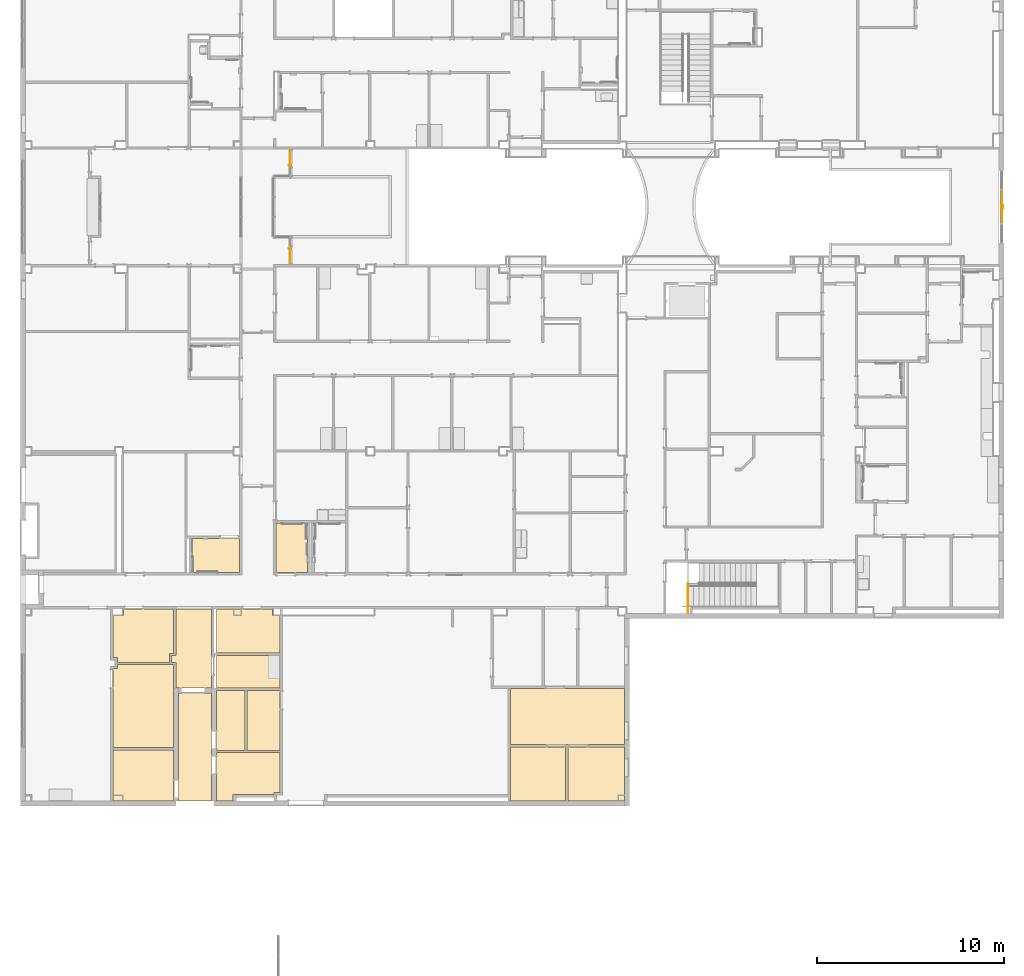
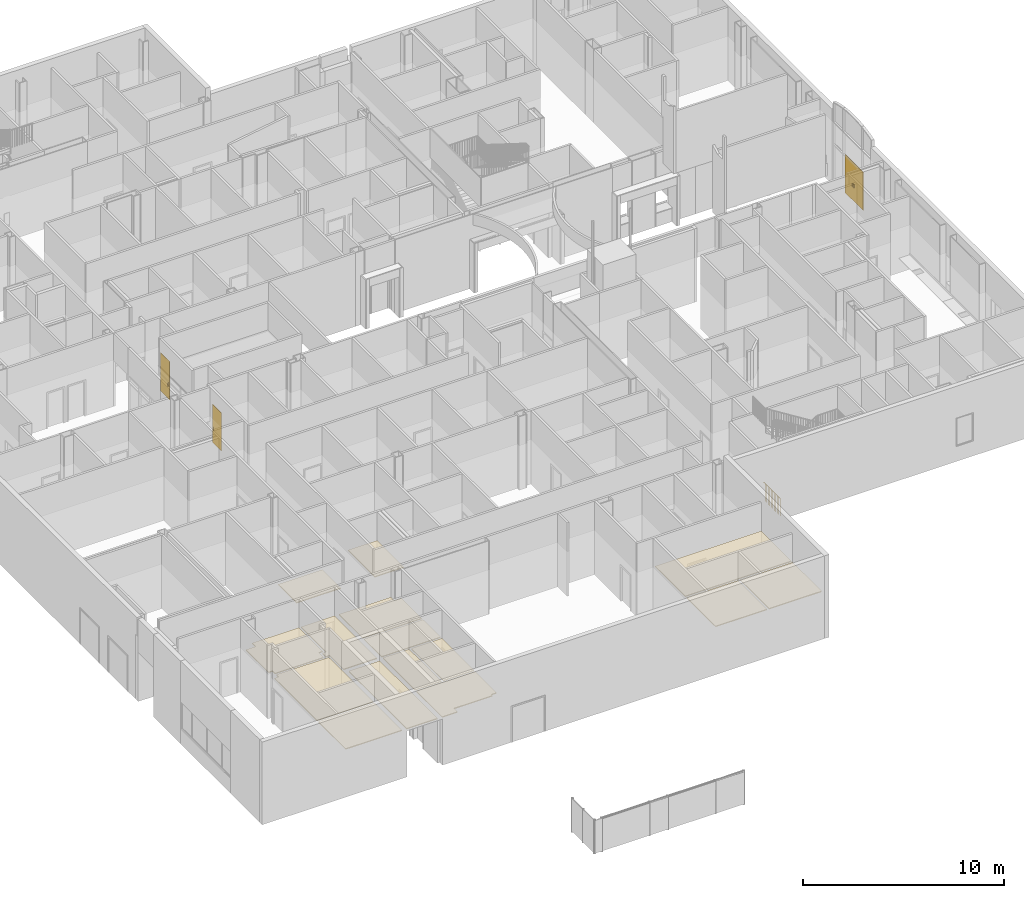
# One storey, part 47 of 82: 15 coverings, 6 doors, 1 railing, 3 elements without a shape of their own.
"""IFC2X3 building model written with IfcOpenShell, lengths in metres."""

from ifc_helpers import new_model, entity, si_unit, converted_unit, frame, origin, origin_2d_with_axis, place, context, project, spatial, rectangle, circle, extrude, face_set, surface_model, source, transform, mapped, material, layer, layer_set, layer_usage, type_object, type_shapes, element, aggregate, save


model = new_model("IFC2X3")

# Units and contexts
model_context = context("Model", 3, precision=1e-09, world=origin())
plan_context = context("Plan", 3, precision=1e-09, world=origin())
ifc_project = project(units=[si_unit("LENGTHUNIT", "METRE"), si_unit("AREAUNIT", "SQUARE_METRE"), si_unit("VOLUMEUNIT", "CUBIC_METRE"), converted_unit("PLANEANGLEUNIT", "DEGREE", entity("IfcRatioMeasure", 0.01745329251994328), si_unit("PLANEANGLEUNIT", "RADIAN"), dimensions=[0, 0, 0, 0, 0, 0, 0]), si_unit("TIMEUNIT", "SECOND")], contexts=[model_context, plan_context])

# Site, building, storey
site_placement = place(None, origin())
site = spatial("IfcSite", under=ifc_project, at=site_placement, Name="Default", CompositionType="ELEMENT")
building_placement = place(site_placement, origin())
building = spatial("IfcBuilding", under=site, at=building_placement, CompositionType="ELEMENT")
storey_placement = place(building_placement, origin())
storey = spatial("IfcBuildingStorey", under=building, at=storey_placement, Name="First Floor", CompositionType="ELEMENT", Elevation=-3.531500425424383e-13)

# Curtain wall, door
curtain_wall_1_placement = place(storey_placement, origin())
curtain_wall_1 = element("IfcCurtainWall", 1, at=curtain_wall_1_placement, inside=storey, Name="Curtain Wall:Storefront - Interior", ObjectType="Curtain Wall:Storefront - Interior")
door_style_1 = type_object("IfcDoorStyle", Name="M_Curtain Wall Sgl Glass", ConstructionType="NOTDEFINED", OperationType="SINGLE_SWING_RIGHT", ParameterTakesPrecedence=False, Sizeable=False)
shared_shape_1 = source(origin(), model_context, "Body", "SweptSolid", [
    extrude(rectangle(XDim=0.0508, YDim=0.02540000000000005, at=origin_2d_with_axis()), frame((-0.3608743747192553, 0.01290000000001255, 0.7619999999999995), z_axis=(0.0, 0.0, 1.0), x_axis=(0.0, 1.0, 0.0)), (0.0, 0.0, 1.0), 0.2286000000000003),
    extrude(rectangle(XDim=0.0508, YDim=0.02539999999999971, at=origin_2d_with_axis()), frame((-0.3608743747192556, 0.07640000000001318, 0.762), z_axis=(0.0, 0.0, 1.0), x_axis=(0.0, -1.0, 0.0)), (0.0, 0.0, 1.0), 0.2286),
    extrude(rectangle(XDim=0.8995487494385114, YDim=0.01270000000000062, at=origin_2d_with_axis()), frame((0.0, 0.04465000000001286, 0.0), z_axis=(0.0, 0.0, 1.0), x_axis=(-1.0, 0.0, 0.0)), (0.0, 0.0, 1.0), 2.325),
])
type_shapes(door_style_1, [shared_shape_1])
door_1_placement = place(storey_placement, frame((-37.80500000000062, 34.27977377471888, 0.05), z_axis=(0.0, 0.0, 1.0), x_axis=(0.0, 1.0, 0.0)))
door_1 = element("IfcDoor", 2, at=door_1_placement, type_object=door_style_1, Name="M_Curtain Wall Sgl Glass:M_Curtain Wall Sgl Glass:M_Curtain Wall Sgl Glass", ObjectType="M_Curtain Wall Sgl Glass", OverallHeight=2.325, OverallWidth=0.8995487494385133, context=model_context, shape_type="MappedRepresentation", body=[
    mapped(shared_shape_1, transform((0.0, 0.0, 0.0), scale=1.0)),
])
aggregate(curtain_wall_1, [door_1])

# Door
door_2_placement = place(storey_placement, frame((-37.80500000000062, 34.27977377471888, 0.05), z_axis=(0.0, 0.0, 1.0), x_axis=(0.0, 1.0, 0.0)))
element("IfcDoor", 3, at=door_2_placement, inside=storey, type_object=door_style_1, Name="M_Curtain Wall Sgl Glass:M_Curtain Wall Sgl Glass:M_Curtain Wall Sgl Glass", ObjectType="M_Curtain Wall Sgl Glass", OverallHeight=2.325, OverallWidth=0.8995487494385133, context=model_context, shape_type="MappedRepresentation", body=[
    mapped(shared_shape_1, transform((0.0, 0.0, 0.0), scale=1.0)),
])

# Curtain wall, door
curtain_wall_2_placement = place(storey_placement, origin())
curtain_wall_2 = element("IfcCurtainWall", 4, at=curtain_wall_2_placement, inside=storey, Name="Curtain Wall:Storefront - Interior", ObjectType="Curtain Wall:Storefront - Interior")
door_style_2 = type_object("IfcDoorStyle", Name="M_Curtain Wall Sgl Glass", ConstructionType="NOTDEFINED", OperationType="SINGLE_SWING_LEFT", ParameterTakesPrecedence=False, Sizeable=False)
shared_shape_2 = source(origin(), model_context, "Body", "SweptSolid", [
    extrude(rectangle(XDim=0.02540000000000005, YDim=0.0508, at=origin_2d_with_axis()), frame((-0.361600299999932, -0.01290000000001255, 0.7619999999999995), z_axis=(0.0, 0.0, 1.0), x_axis=(-1.0, 0.0, 0.0)), (0.0, 0.0, 1.0), 0.2286000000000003),
    extrude(rectangle(XDim=0.02539999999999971, YDim=0.0508, at=origin_2d_with_axis()), frame((-0.3616002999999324, -0.07640000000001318, 0.762)), (0.0, 0.0, 1.0), 0.2286),
    extrude(rectangle(XDim=0.01270000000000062, YDim=0.9010005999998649, at=origin_2d_with_axis()), frame((0.0, -0.04465000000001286, 0.0), z_axis=(0.0, 0.0, 1.0), x_axis=(0.0, 1.0, 0.0)), (0.0, 0.0, 1.0), 2.324999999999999),
])
type_shapes(door_style_2, [shared_shape_2])
door_3_placement = place(storey_placement, frame((-37.80500000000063, 29.11050029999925, 0.05), z_axis=(0.0, 0.0, 1.0), x_axis=(0.0, -1.0, 0.0)))
door_3 = element("IfcDoor", 5, at=door_3_placement, type_object=door_style_2, Name="M_Curtain Wall Sgl Glass:M_Curtain Wall Sgl Glass:M_Curtain Wall Sgl Glass", ObjectType="M_Curtain Wall Sgl Glass", OverallHeight=2.324999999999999, OverallWidth=0.9010005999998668, context=model_context, shape_type="MappedRepresentation", body=[
    mapped(shared_shape_2, transform((0.0, 0.0, 0.0), scale=1.0)),
])
aggregate(curtain_wall_2, [door_3])

# Doors
door_4_placement = place(storey_placement, frame((-37.80500000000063, 29.11050029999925, 0.05), z_axis=(0.0, 0.0, 1.0), x_axis=(0.0, -1.0, 0.0)))
element("IfcDoor", 6, at=door_4_placement, inside=storey, type_object=door_style_2, Name="M_Curtain Wall Sgl Glass:M_Curtain Wall Sgl Glass:M_Curtain Wall Sgl Glass", ObjectType="M_Curtain Wall Sgl Glass", OverallHeight=2.324999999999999, OverallWidth=0.9010005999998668, context=model_context, shape_type="MappedRepresentation", body=[
    mapped(shared_shape_2, transform((0.0, 0.0, 0.0), scale=1.0)),
])
door_style_3 = type_object("IfcDoorStyle", Name="M_Curtain Wall Dbl Glass", ConstructionType="NOTDEFINED", OperationType="DOUBLE_DOOR_SINGLE_SWING", ParameterTakesPrecedence=False, Sizeable=False)
shared_shape_3 = source(origin(), model_context, "Body", "SurfaceModel", [
    surface_model("IfcFaceBasedSurfaceModel", [(-0.001587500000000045, 0.03094999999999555, 2.325), (-0.9000000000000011, 0.03094999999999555, 2.325), (-0.9000000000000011, 0.03094999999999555, 0.0), (-0.001587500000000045, 0.03094999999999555, 0.0), (-0.001587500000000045, 0.04999999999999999, 2.325), (-0.9000000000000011, 0.04999999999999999, 2.325), (-0.9000000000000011, 0.04999999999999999, 0.0), (-0.001587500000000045, 0.04999999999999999, 0.0), (0.00158749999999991, 0.03094999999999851, 2.325), (0.001587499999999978, 0.03094999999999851, 0.0), (0.9000000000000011, 0.03094999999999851, 0.0), (0.9000000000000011, 0.03094999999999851, 2.325), (0.00158749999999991, 0.04999999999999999, 2.325), (0.00158749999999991, 0.04999999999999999, 0.0), (0.9000000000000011, 0.04999999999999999, 0.0), (0.9000000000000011, 0.04999999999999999, 2.325), (-0.05080000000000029, 0.1007999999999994, 1.066799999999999), (-0.05080000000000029, 0.04999999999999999, 1.066799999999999), (-0.05715000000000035, 0.04999999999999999, 1.066799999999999), (-0.05715000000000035, 0.09444999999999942, 1.066799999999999), (-0.09524999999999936, 0.09444999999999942, 1.066799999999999), (-0.09524999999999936, 0.1007999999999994, 1.066799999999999), (0.05080000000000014, 0.1008000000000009, 1.066799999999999), (0.0952499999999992, 0.1008000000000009, 1.066799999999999), (0.0952499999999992, 0.09445000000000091, 1.066799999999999), (0.05715000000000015, 0.09445000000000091, 1.066799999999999), (0.05715000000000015, 0.04999999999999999, 1.066799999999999), (0.05080000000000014, 0.04999999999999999, 1.066799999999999), (-0.05080000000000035, -0.01985000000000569, 1.066799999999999), (-0.09524999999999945, -0.01985000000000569, 1.066799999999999), (-0.09524999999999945, -0.01350000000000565, 1.066799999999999), (-0.05715000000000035, -0.01350000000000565, 1.066799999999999), (-0.05715000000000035, 0.03094999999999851, 1.066799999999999), (-0.05080000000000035, 0.03094999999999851, 1.066799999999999), (0.05079999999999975, -0.01985000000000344, 1.066799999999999), (0.05079999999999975, 0.03094999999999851, 1.066799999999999), (0.05714999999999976, 0.03094999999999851, 1.066799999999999), (0.05714999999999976, -0.0135000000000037, 1.066799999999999), (0.09524999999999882, -0.0135000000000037, 1.066799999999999), (0.09524999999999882, -0.01985000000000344, 1.066799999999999), (-0.05080000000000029, 0.1007999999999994, 0.8635999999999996), (-0.05080000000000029, 0.04999999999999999, 0.8635999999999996), (-0.05715000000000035, 0.04999999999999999, 0.8635999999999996), (-0.05715000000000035, 0.09444999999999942, 0.8635999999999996), (-0.09524999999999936, 0.09444999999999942, 0.8635999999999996), (-0.09524999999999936, 0.1007999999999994, 0.8635999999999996), (0.05080000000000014, 0.1008000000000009, 0.8635999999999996), (0.0952499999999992, 0.1008000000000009, 0.8635999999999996), (0.0952499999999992, 0.09445000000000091, 0.8635999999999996), (0.05715000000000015, 0.09445000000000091, 0.8635999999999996), (0.05715000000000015, 0.04999999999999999, 0.8635999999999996), (0.05080000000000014, 0.04999999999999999, 0.8635999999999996), (-0.05080000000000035, -0.01985000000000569, 0.8635999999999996), (-0.09524999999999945, -0.01985000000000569, 0.8635999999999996), (-0.09524999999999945, -0.01350000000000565, 0.8635999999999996), (-0.05715000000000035, -0.01350000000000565, 0.8635999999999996), (-0.05715000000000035, 0.03094999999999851, 0.8635999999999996), (-0.05080000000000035, 0.03094999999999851, 0.8635999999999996), (0.05079999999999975, -0.01985000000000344, 0.8635999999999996), (0.05079999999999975, 0.03094999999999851, 0.8635999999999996), (0.05714999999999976, 0.03094999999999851, 0.8635999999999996), (0.05714999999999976, -0.0135000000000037, 0.8635999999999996), (0.09524999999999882, -0.0135000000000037, 0.8635999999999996), (0.09524999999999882, -0.01985000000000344, 0.8635999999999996)], [face_set([[[0, 1, 2, 3]], [[4, 5, 6, 7]], [[1, 5, 4, 0]], [[2, 6, 5, 1]], [[3, 2, 6, 7]], [[0, 3, 7, 4]]]), face_set([[[8, 9, 10, 11]], [[12, 13, 14, 15]], [[9, 8, 12, 13]], [[10, 9, 13, 14]], [[11, 15, 14, 10]], [[8, 12, 15, 11]]]), face_set([[[16, 17, 18, 19, 20, 21]], [[22, 23, 24, 25, 26, 27]], [[28, 29, 30, 31, 32, 33]], [[34, 35, 36, 37, 38, 39]], [[40, 41, 42, 43, 44, 45]], [[46, 47, 48, 49, 50, 51]], [[52, 53, 54, 55, 56, 57]], [[58, 59, 60, 61, 62, 63]], [[21, 45, 40, 16]], [[20, 21, 45, 44]], [[19, 20, 44, 43]], [[18, 19, 43, 42]], [[17, 18, 42, 41]], [[16, 40, 41, 17]], [[27, 51, 46, 22]], [[26, 27, 51, 50]], [[25, 26, 50, 49]], [[24, 25, 49, 48]], [[23, 24, 48, 47]], [[22, 46, 47, 23]], [[33, 57, 52, 28]], [[32, 56, 57, 33]], [[31, 32, 56, 55]], [[30, 54, 55, 31]], [[29, 30, 54, 53]], [[28, 29, 53, 52]], [[39, 34, 58, 63]], [[38, 39, 63, 62]], [[37, 61, 62, 38]], [[36, 37, 61, 60]], [[35, 59, 60, 36]], [[34, 58, 59, 35]]])]),
])
type_shapes(door_style_3, [shared_shape_3])
door_5_placement = place(storey_placement, frame((0.2464999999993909, 31.69499999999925, 0.05000000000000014), z_axis=(0.0, 0.0, 1.0), x_axis=(0.0, -1.0, 0.0)))
element("IfcDoor", 7, at=door_5_placement, inside=storey, type_object=door_style_3, Name="M_Curtain Wall Dbl Glass:M_Curtain Wall Dbl Glass:M_Curtain Wall Dbl Glass", ObjectType="M_Curtain Wall Dbl Glass", OverallHeight=2.326855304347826, OverallWidth=1.800000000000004, context=model_context, shape_type="MappedRepresentation", body=[
    mapped(shared_shape_3, transform((0.0, 0.0, 0.0), scale=1.0)),
])

# Curtain wall, door
curtain_wall_3_placement = place(storey_placement, origin())
curtain_wall_3 = element("IfcCurtainWall", 8, at=curtain_wall_3_placement, inside=storey, Name="Curtain Wall:Storefront", ObjectType="Curtain Wall:Storefront")
door_6_placement = place(storey_placement, frame((0.2464999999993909, 31.69499999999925, 0.05000000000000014), z_axis=(0.0, 0.0, 1.0), x_axis=(0.0, -1.0, 0.0)))
door_6 = element("IfcDoor", 9, at=door_6_placement, type_object=door_style_3, Name="M_Curtain Wall Dbl Glass:M_Curtain Wall Dbl Glass:M_Curtain Wall Dbl Glass", ObjectType="M_Curtain Wall Dbl Glass", OverallHeight=2.326855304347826, OverallWidth=1.800000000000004, context=model_context, shape_type="MappedRepresentation", body=[
    mapped(shared_shape_3, transform((0.0, 0.0, 0.0), scale=1.0)),
])
aggregate(curtain_wall_3, [door_6])

# Coverings
ifc_material_1 = material(Name="Default")
ifc_layer_1 = layer(ifc_material_1, 0.03599999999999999)
ifc_material_2 = material(Name="Ceiling Tile 600 x 600")
ifc_layer_2 = layer(ifc_material_2, 0.016)
ifc_layer_set = layer_set([ifc_layer_1, ifc_layer_2], Name="Compound Ceiling:ACT 600 x 600mm Grid")
ifc_layer_usage = layer_usage(ifc_layer_set, "AXIS3", "NEGATIVE", 0.0)
covering_1_placement = place(storey_placement, origin())
element("IfcCovering", 10, at=covering_1_placement, inside=storey, material=ifc_layer_usage, Name="Compound Ceiling:ACT 600 x 600mm Grid", ObjectType="Compound Ceiling:ACT 600 x 600mm Grid", PredefinedType="CEILING", context=model_context, shape_type="SurfaceModel", body=[
    surface_model("IfcFaceBasedSurfaceModel", [(-42.04000000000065, 10.16299999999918, 2.732), (-42.04000000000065, 5.919999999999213, 2.732), (-43.81700000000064, 5.919999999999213, 2.732), (-43.96000000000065, 5.919999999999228, 2.732), (-43.96000000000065, 7.309999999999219, 2.732), (-44.18500012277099, 7.30999999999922, 2.732), (-44.18500012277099, 7.659999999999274, 2.732), (-43.96000000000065, 7.659999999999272, 2.732), (-43.96000000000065, 10.16299999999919, 2.732), (-42.04000000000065, 10.16299999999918, 2.68), (-42.04000000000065, 5.919999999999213, 2.68), (-43.81700000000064, 5.919999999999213, 2.68), (-43.96000000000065, 5.919999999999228, 2.68), (-43.96000000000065, 7.309999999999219, 2.68), (-44.18500012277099, 7.30999999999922, 2.68), (-44.18500012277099, 7.659999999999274, 2.68), (-43.96000000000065, 7.659999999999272, 2.68), (-43.96000000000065, 10.16299999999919, 2.68)], [face_set([[[0, 1, 2, 3, 4, 5, 6, 7, 8]], [[9, 10, 11, 12, 13, 14, 15, 16, 17]], [[8, 17, 9, 0]], [[7, 16, 17, 8]], [[6, 15, 16, 7]], [[5, 14, 15, 6]], [[4, 5, 14, 13]], [[3, 12, 13, 4]], [[2, 3, 12, 11]], [[1, 2, 11, 10]], [[0, 1, 10, 9]]])]),
])
covering_2_placement = place(storey_placement, origin())
element("IfcCovering", 11, at=covering_2_placement, inside=storey, material=ifc_layer_usage, Name="Compound Ceiling:ACT 600 x 600mm Grid", ObjectType="Compound Ceiling:ACT 600 x 600mm Grid", PredefinedType="CEILING", context=model_context, shape_type="SurfaceModel", body=[
    surface_model("IfcFaceBasedSurfaceModel", [(-40.55400000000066, 13.9359999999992, 2.732), (-40.55400000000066, 12.10399999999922, 2.732), (-43.09300000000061, 12.10399999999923, 2.732), (-43.09300000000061, 13.93599999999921, 2.732), (-40.55400000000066, 13.9359999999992, 2.68), (-40.55400000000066, 12.10399999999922, 2.68), (-43.09300000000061, 12.10399999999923, 2.68), (-43.09300000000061, 13.93599999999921, 2.68)], [face_set([[[0, 1, 2, 3]], [[4, 5, 6, 7]], [[3, 7, 4, 0]], [[2, 6, 7, 3]], [[1, 2, 6, 5]], [[0, 1, 5, 4]]])]),
])
covering_3_placement = place(storey_placement, origin())
element("IfcCovering", 12, at=covering_3_placement, inside=storey, material=ifc_layer_usage, Name="Compound Ceiling:ACT 600 x 600mm Grid", ObjectType="Compound Ceiling:ACT 600 x 600mm Grid", PredefinedType="CEILING", context=model_context, shape_type="SurfaceModel", body=[
    surface_model("IfcFaceBasedSurfaceModel", [(-23.09400000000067, -0.1130000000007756, 2.732), (-26.05000000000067, -0.1130000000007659, 2.732), (-26.05000000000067, 2.77999999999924, 2.732), (-23.09400000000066, 2.779999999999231, 2.732), (-23.09400000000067, -0.1130000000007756, 2.68), (-26.05000000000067, -0.1130000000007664, 2.68), (-26.05000000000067, 2.77999999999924, 2.68), (-23.09400000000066, 2.779999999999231, 2.68)], [face_set([[[0, 1, 2, 3]], [[4, 5, 6, 7]], [[3, 0, 4, 7]], [[2, 6, 7, 3]], [[1, 5, 6, 2]], [[0, 1, 5, 4]]])]),
])
covering_4_placement = place(storey_placement, origin())
element("IfcCovering", 13, at=covering_4_placement, inside=storey, material=ifc_layer_usage, Name="Compound Ceiling:ACT 600 x 600mm Grid", ObjectType="Compound Ceiling:ACT 600 x 600mm Grid", PredefinedType="CEILING", context=model_context, shape_type="SurfaceModel", body=[
    surface_model("IfcFaceBasedSurfaceModel", [(-22.97000000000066, 2.779999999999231, 2.732), (-19.9470000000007, 2.779999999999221, 2.732), (-19.9470000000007, -0.1130000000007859, 2.732), (-22.97000000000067, -0.1130000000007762, 2.732), (-22.97000000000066, 2.779999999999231, 2.68), (-19.9470000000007, 2.779999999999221, 2.68), (-19.9470000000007, -0.1130000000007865, 2.68), (-22.97000000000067, -0.1130000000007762, 2.68)], [face_set([[[0, 1, 2, 3]], [[4, 5, 6, 7]], [[3, 7, 4, 0]], [[2, 3, 7, 6]], [[1, 2, 6, 5]], [[0, 4, 5, 1]]])]),
])
covering_5_placement = place(storey_placement, origin())
element("IfcCovering", 14, at=covering_5_placement, inside=storey, material=ifc_layer_usage, Name="Compound Ceiling:ACT 600 x 600mm Grid", ObjectType="Compound Ceiling:ACT 600 x 600mm Grid", PredefinedType="CEILING", context=model_context, shape_type="SurfaceModel", body=[
    surface_model("IfcFaceBasedSurfaceModel", [(-46.77000000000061, 9.809999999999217, 2.732), (-46.77000000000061, 10.16299999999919, 2.732), (-44.08400000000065, 10.16299999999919, 2.732), (-44.08400000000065, 7.783999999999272, 2.732), (-44.30900012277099, 7.783999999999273, 2.732), (-44.30900012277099, 7.30999999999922, 2.732), (-47.09600000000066, 7.309999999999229, 2.732), (-47.09600000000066, 7.563999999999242, 2.732), (-47.32600000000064, 7.563999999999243, 2.732), (-47.32600000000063, 9.809999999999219, 2.732), (-46.77000000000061, 9.809999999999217, 2.68), (-46.77000000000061, 10.16299999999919, 2.68), (-44.08400000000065, 10.16299999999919, 2.68), (-44.08400000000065, 7.783999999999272, 2.68), (-44.30900012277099, 7.783999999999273, 2.68), (-44.30900012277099, 7.30999999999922, 2.68), (-47.09600000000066, 7.309999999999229, 2.68), (-47.09600000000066, 7.563999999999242, 2.68), (-47.32600000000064, 7.563999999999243, 2.68), (-47.32600000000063, 9.809999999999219, 2.68)], [face_set([[[0, 1, 2, 3, 4, 5, 6, 7, 8, 9]], [[10, 11, 12, 13, 14, 15, 16, 17, 18, 19]], [[9, 19, 10, 0]], [[8, 18, 19, 9]], [[7, 8, 18, 17]], [[6, 16, 17, 7]], [[5, 6, 16, 15]], [[4, 5, 15, 14]], [[3, 4, 14, 13]], [[2, 3, 13, 12]], [[1, 11, 12, 2]], [[0, 10, 11, 1]]])]),
])
covering_6_placement = place(storey_placement, origin())
element("IfcCovering", 15, at=covering_6_placement, inside=storey, material=ifc_layer_usage, Name="Compound Ceiling:ACT 600 x 600mm Grid", ObjectType="Compound Ceiling:ACT 600 x 600mm Grid", PredefinedType="CEILING", context=model_context, shape_type="SurfaceModel", body=[
    surface_model("IfcFaceBasedSurfaceModel", [(-44.08400000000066, -0.1130000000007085, 2.732), (-47.32600000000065, -0.1130000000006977, 2.732), (-47.32600000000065, 2.615999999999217, 2.732), (-44.08400000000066, 2.615999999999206, 2.732), (-44.08400000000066, -0.1130000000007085, 2.68), (-47.32600000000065, -0.1130000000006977, 2.68), (-47.32600000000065, 2.615999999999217, 2.68), (-44.08400000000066, 2.615999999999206, 2.68)], [face_set([[[0, 1, 2, 3]], [[4, 5, 6, 7]], [[3, 0, 4, 7]], [[2, 6, 7, 3]], [[1, 5, 6, 2]], [[0, 1, 5, 4]]])]),
])
covering_7_placement = place(storey_placement, origin())
element("IfcCovering", 16, at=covering_7_placement, inside=storey, material=ifc_layer_usage, Name="Compound Ceiling:ACT 600 x 600mm Grid", ObjectType="Compound Ceiling:ACT 600 x 600mm Grid", PredefinedType="CEILING", context=model_context, shape_type="SurfaceModel", body=[
    surface_model("IfcFaceBasedSurfaceModel", [(-38.3793992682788, 5.919999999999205, 2.732), (-41.77300000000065, 5.919999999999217, 2.732), (-41.77300000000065, 7.674999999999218, 2.732), (-38.3793992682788, 7.674999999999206, 2.732), (-38.3793992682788, 5.919999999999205, 2.68), (-41.77300000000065, 5.919999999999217, 2.68), (-41.77300000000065, 7.674999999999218, 2.68), (-38.3793992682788, 7.674999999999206, 2.68)], [face_set([[[0, 1, 2, 3]], [[4, 5, 6, 7]], [[3, 0, 4, 7]], [[2, 6, 7, 3]], [[1, 5, 6, 2]], [[0, 1, 5, 4]]])]),
])
covering_8_placement = place(storey_placement, origin())
element("IfcCovering", 17, at=covering_8_placement, inside=storey, material=ifc_layer_usage, Name="Compound Ceiling:ACT 600 x 600mm Grid", ObjectType="Compound Ceiling:ACT 600 x 600mm Grid", PredefinedType="CEILING", context=model_context, shape_type="SurfaceModel", body=[
    surface_model("IfcFaceBasedSurfaceModel", [(-41.77300000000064, 10.16299999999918, 2.732), (-38.78540000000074, 10.16299999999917, 2.732), (-38.78540000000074, 9.809999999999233, 2.732), (-38.3793992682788, 9.809999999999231, 2.732), (-38.3793992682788, 7.798999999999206, 2.732), (-41.77300000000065, 7.798999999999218, 2.732), (-41.77300000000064, 10.16299999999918, 2.68), (-38.78540000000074, 10.16299999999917, 2.68), (-38.78540000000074, 9.809999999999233, 2.68), (-38.3793992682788, 9.809999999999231, 2.68), (-38.3793992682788, 7.798999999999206, 2.68), (-41.77300000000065, 7.798999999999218, 2.68)], [face_set([[[0, 1, 2, 3, 4, 5]], [[6, 7, 8, 9, 10, 11]], [[5, 11, 6, 0]], [[4, 5, 11, 10]], [[3, 4, 10, 9]], [[2, 8, 9, 3]], [[1, 2, 8, 7]], [[0, 6, 7, 1]]])]),
])
covering_9_placement = place(storey_placement, origin())
element("IfcCovering", 18, at=covering_9_placement, inside=storey, material=ifc_layer_usage, Name="Compound Ceiling:ACT 600 x 600mm Grid", ObjectType="Compound Ceiling:ACT 600 x 600mm Grid", PredefinedType="CEILING", context=model_context, shape_type="SurfaceModel", body=[
    surface_model("IfcFaceBasedSurfaceModel", [(-44.08400000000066, 2.739999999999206, 2.732), (-47.32600000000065, 2.739999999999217, 2.732), (-47.32600000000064, 6.965999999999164, 2.732), (-47.09600000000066, 6.965999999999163, 2.732), (-47.09600000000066, 7.185999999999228, 2.732), (-44.24700012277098, 7.18599999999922, 2.732), (-44.08400000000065, 7.185999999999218, 2.732), (-44.08400000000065, 5.795999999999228, 2.732), (-44.08400000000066, 2.739999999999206, 2.68), (-47.32600000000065, 2.739999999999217, 2.68), (-47.32600000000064, 6.965999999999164, 2.68), (-47.09600000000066, 6.965999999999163, 2.68), (-47.09600000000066, 7.185999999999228, 2.68), (-44.24700012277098, 7.18599999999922, 2.68), (-44.08400000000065, 7.185999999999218, 2.68), (-44.08400000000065, 5.795999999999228, 2.68)], [face_set([[[0, 1, 2, 3, 4, 5, 6, 7]], [[8, 9, 10, 11, 12, 13, 14, 15]], [[7, 0, 8, 15]], [[6, 7, 15, 14]], [[5, 13, 14, 6]], [[4, 12, 13, 5]], [[3, 11, 12, 4]], [[2, 10, 11, 3]], [[1, 9, 10, 2]], [[0, 1, 9, 8]]])]),
])
covering_10_placement = place(storey_placement, origin())
element("IfcCovering", 19, at=covering_10_placement, inside=storey, material=ifc_layer_usage, Name="Compound Ceiling:ACT 600 x 600mm Grid", ObjectType="Compound Ceiling:ACT 600 x 600mm Grid", PredefinedType="CEILING", context=model_context, shape_type="SurfaceModel", body=[
    surface_model("IfcFaceBasedSurfaceModel", [(-36.92500000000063, 14.76599999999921, 2.732), (-36.92500000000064, 12.10399999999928, 2.732), (-38.59600000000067, 12.10399999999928, 2.732), (-38.59600000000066, 14.76599999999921, 2.732), (-36.92500000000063, 14.76599999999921, 2.68), (-36.92500000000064, 12.10399999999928, 2.68), (-38.59600000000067, 12.10399999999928, 2.68), (-38.59600000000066, 14.76599999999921, 2.68)], [face_set([[[0, 1, 2, 3]], [[4, 5, 6, 7]], [[3, 7, 4, 0]], [[2, 6, 7, 3]], [[1, 2, 6, 5]], [[0, 1, 5, 4]]])]),
])
covering_11_placement = place(storey_placement, origin())
element("IfcCovering", 20, at=covering_11_placement, inside=storey, material=ifc_layer_usage, Name="Compound Ceiling:ACT 600 x 600mm Grid", ObjectType="Compound Ceiling:ACT 600 x 600mm Grid", PredefinedType="CEILING", context=model_context, shape_type="SurfaceModel", body=[
    surface_model("IfcFaceBasedSurfaceModel", [(-38.3793992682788, 2.46999999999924, 2.732), (-38.37939926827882, 0.3387282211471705, 2.732), (-38.69440000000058, 0.3387282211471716, 2.732), (-38.69440000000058, 0.2299999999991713, 2.732), (-40.89000000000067, 0.2299999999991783, 2.732), (-40.89000000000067, -0.1130000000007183, 2.732), (-41.77300000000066, -0.1130000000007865, 2.732), (-41.77300000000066, 2.46999999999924, 2.732), (-38.3793992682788, 2.46999999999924, 2.68), (-38.37939926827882, 0.3387282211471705, 2.68), (-38.69440000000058, 0.3387282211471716, 2.68), (-38.69440000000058, 0.2299999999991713, 2.68), (-40.89000000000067, 0.2299999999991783, 2.68), (-40.89000000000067, -0.1130000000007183, 2.68), (-41.77300000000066, -0.1130000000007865, 2.68), (-41.77300000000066, 2.46999999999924, 2.68)], [face_set([[[0, 1, 2, 3, 4, 5, 6, 7]], [[8, 9, 10, 11, 12, 13, 14, 15]], [[7, 15, 8, 0]], [[6, 14, 15, 7]], [[5, 6, 14, 13]], [[4, 5, 13, 12]], [[3, 4, 12, 11]], [[2, 3, 11, 10]], [[1, 2, 10, 9]], [[0, 1, 9, 8]]])]),
])
covering_12_placement = place(storey_placement, origin())
element("IfcCovering", 21, at=covering_12_placement, inside=storey, material=ifc_layer_usage, Name="Compound Ceiling:ACT 600 x 600mm Grid", ObjectType="Compound Ceiling:ACT 600 x 600mm Grid", PredefinedType="CEILING", context=model_context, shape_type="SurfaceModel", body=[
    surface_model("IfcFaceBasedSurfaceModel", [(-42.04000000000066, 5.652999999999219, 2.732), (-42.04000000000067, -0.113000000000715, 2.732), (-43.81700000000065, -0.1130000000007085, 2.732), (-43.81700000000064, 5.652999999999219, 2.732), (-42.04000000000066, 5.652999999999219, 2.68), (-42.04000000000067, -0.113000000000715, 2.68), (-43.81700000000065, -0.1130000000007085, 2.68), (-43.81700000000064, 5.652999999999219, 2.68)], [face_set([[[0, 1, 2, 3]], [[4, 5, 6, 7]], [[3, 7, 4, 0]], [[2, 6, 7, 3]], [[1, 2, 6, 5]], [[0, 1, 5, 4]]])]),
])
covering_13_placement = place(storey_placement, origin())
element("IfcCovering", 22, at=covering_13_placement, inside=storey, material=ifc_layer_usage, Name="Compound Ceiling:ACT 600 x 600mm Grid", ObjectType="Compound Ceiling:ACT 600 x 600mm Grid", PredefinedType="CEILING", context=model_context, shape_type="SurfaceModel", body=[
    surface_model("IfcFaceBasedSurfaceModel", [(-26.05000000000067, 5.909999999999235, 2.732), (-19.94700000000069, 5.909999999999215, 2.732), (-19.9470000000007, 2.903999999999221, 2.732), (-26.05000000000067, 2.90399999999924, 2.732), (-26.05000000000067, 5.909999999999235, 2.68), (-19.94700000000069, 5.909999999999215, 2.68), (-19.9470000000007, 2.903999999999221, 2.68), (-26.05000000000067, 2.90399999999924, 2.68)], [face_set([[[0, 1, 2, 3]], [[4, 5, 6, 7]], [[3, 7, 4, 0]], [[2, 3, 7, 6]], [[1, 2, 6, 5]], [[0, 4, 5, 1]]])]),
])
covering_14_placement = place(storey_placement, origin())
element("IfcCovering", 23, at=covering_14_placement, inside=storey, material=ifc_layer_usage, Name="Compound Ceiling:ACT 600 x 600mm Grid", ObjectType="Compound Ceiling:ACT 600 x 600mm Grid", PredefinedType="CEILING", context=model_context, shape_type="SurfaceModel", body=[
    surface_model("IfcFaceBasedSurfaceModel", [(-41.77300000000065, 2.593999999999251, 2.732), (-41.77300000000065, 5.795999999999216, 2.732), (-40.26540000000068, 5.795999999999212, 2.732), (-40.26540000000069, 2.593999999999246, 2.732), (-41.77300000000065, 2.593999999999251, 2.68), (-41.77300000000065, 5.795999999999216, 2.68), (-40.26540000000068, 5.795999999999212, 2.68), (-40.26540000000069, 2.593999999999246, 2.68)], [face_set([[[0, 1, 2, 3]], [[4, 5, 6, 7]], [[3, 0, 4, 7]], [[2, 3, 7, 6]], [[1, 5, 6, 2]], [[0, 4, 5, 1]]])]),
])
covering_15_placement = place(storey_placement, origin())
element("IfcCovering", 24, at=covering_15_placement, inside=storey, material=ifc_layer_usage, Name="Compound Ceiling:ACT 600 x 600mm Grid", ObjectType="Compound Ceiling:ACT 600 x 600mm Grid", PredefinedType="CEILING", context=model_context, shape_type="SurfaceModel", body=[
    surface_model("IfcFaceBasedSurfaceModel", [(-38.37939926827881, 2.593999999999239, 2.732), (-40.14140000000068, 2.593999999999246, 2.732), (-40.14140000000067, 5.795999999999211, 2.732), (-38.3793992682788, 5.795999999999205, 2.732), (-38.37939926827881, 2.593999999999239, 2.68), (-40.14140000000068, 2.593999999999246, 2.68), (-40.14140000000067, 5.795999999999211, 2.68), (-38.3793992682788, 5.795999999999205, 2.68)], [face_set([[[0, 1, 2, 3]], [[4, 5, 6, 7]], [[3, 0, 4, 7]], [[2, 6, 7, 3]], [[1, 5, 6, 2]], [[0, 1, 5, 4]]])]),
])

# Railing
railing_placement = place(storey_placement, origin())
element("IfcRailing", 25, at=railing_placement, inside=storey, Name="Railing:1100mm Guard Rail", ObjectType="Railing:1100mm Guard Rail", PredefinedType="NOTDEFINED", context=model_context, shape_type="SweptSolid", body=[
    extrude(circle(Radius=0.009999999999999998, at=origin_2d_with_axis()), frame((-16.53899985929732, 9.990999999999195, 0.0)), (0.0, 0.0, 1.0), 1.06),
    extrude(circle(Radius=0.009999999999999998, at=origin_2d_with_axis()), frame((-16.53899985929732, 10.1109999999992, 0.0)), (0.0, 0.0, 1.0), 1.06),
    extrude(circle(Radius=0.009999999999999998, at=origin_2d_with_axis()), frame((-16.53899985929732, 10.2309999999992, 0.0)), (0.0, 0.0, 1.0), 1.06),
    extrude(circle(Radius=0.009999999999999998, at=origin_2d_with_axis()), frame((-16.53899985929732, 10.3509999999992, 0.0)), (0.0, 0.0, 1.0), 1.06),
    extrude(circle(Radius=0.009999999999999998, at=origin_2d_with_axis()), frame((-16.53899985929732, 10.4709999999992, 0.0)), (0.0, 0.0, 1.0), 1.06),
    extrude(circle(Radius=0.009999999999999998, at=origin_2d_with_axis()), frame((-16.53899985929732, 10.5909999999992, 0.0)), (0.0, 0.0, 1.0), 1.06),
    extrude(circle(Radius=0.009999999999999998, at=origin_2d_with_axis()), frame((-16.53899985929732, 10.7109999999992, 0.0)), (0.0, 0.0, 1.0), 1.06),
    extrude(circle(Radius=0.009999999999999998, at=origin_2d_with_axis()), frame((-16.53899985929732, 10.8309999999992, 0.0)), (0.0, 0.0, 1.0), 1.06),
    extrude(circle(Radius=0.009999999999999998, at=origin_2d_with_axis()), frame((-16.53899985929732, 10.9509999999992, 0.0)), (0.0, 0.0, 1.0), 1.06),
    extrude(circle(Radius=0.009999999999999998, at=origin_2d_with_axis()), frame((-16.53899985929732, 11.0709999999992, 0.0)), (0.0, 0.0, 1.0), 1.06),
    extrude(circle(Radius=0.009999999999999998, at=origin_2d_with_axis()), frame((-16.53899985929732, 11.19099999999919, 0.0)), (0.0, 0.0, 1.0), 1.06),
    extrude(circle(Radius=0.009999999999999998, at=origin_2d_with_axis()), frame((-16.53899985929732, 11.3109999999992, 0.0)), (0.0, 0.0, 1.0), 1.06),
    extrude(circle(Radius=0.009999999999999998, at=origin_2d_with_axis()), frame((-16.53899985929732, 11.43099999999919, 0.0)), (0.0, 0.0, 1.0), 1.06),
    extrude(circle(Radius=0.009999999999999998, at=origin_2d_with_axis()), frame((-16.53899985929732, 9.939499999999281, 0.0)), (0.0, 0.0, 1.0), 1.06),
    extrude(circle(Radius=0.009999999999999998, at=origin_2d_with_axis()), frame((-16.53899985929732, 11.5384999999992, 0.0)), (0.0, 0.0, 1.0), 1.06),
    extrude(circle(Radius=0.02, at=origin_2d_with_axis()), frame((-16.53899985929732, 9.92699999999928, 1.08), z_axis=(0.0, 1.0, 0.0), x_axis=(-1.0, 0.0, 0.0)), (0.0, 0.0, 1.0), 1.623999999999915),
])

save(model, "model.ifc")
